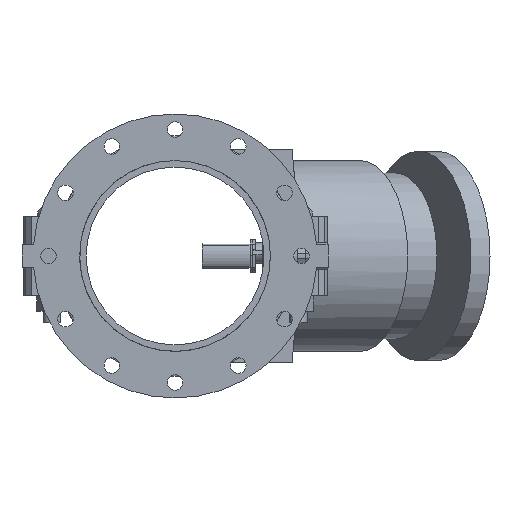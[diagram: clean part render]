
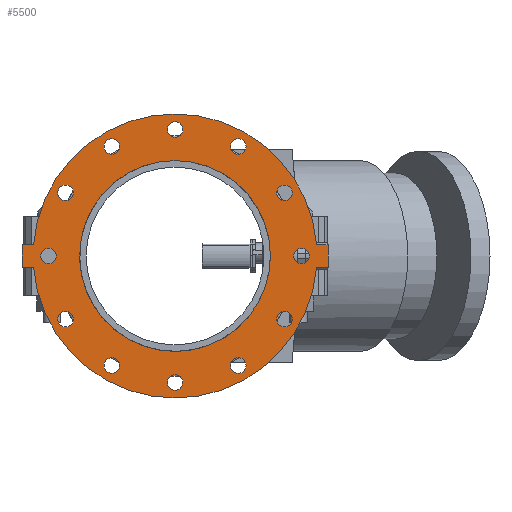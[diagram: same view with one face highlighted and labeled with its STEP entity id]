
A CAD part, front view. The second image highlights one B-rep face of the part: STEP entity #5500.
In plain terms, the highlighted planar face has unit normal (0, -1, 0) as drawn and (0, 0, 1) by its records, which use the part's own axes.
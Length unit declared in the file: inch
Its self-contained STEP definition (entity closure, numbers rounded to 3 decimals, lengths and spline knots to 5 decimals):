
#145=FACE_BOUND('',#736,.T.);
#146=FACE_BOUND('',#737,.T.);
#147=FACE_BOUND('',#738,.T.);
#148=FACE_BOUND('',#739,.T.);
#149=FACE_BOUND('',#740,.T.);
#150=FACE_BOUND('',#741,.T.);
#151=FACE_BOUND('',#742,.T.);
#152=FACE_BOUND('',#743,.T.);
#153=FACE_BOUND('',#744,.T.);
#154=FACE_BOUND('',#745,.T.);
#155=FACE_BOUND('',#746,.T.);
#156=FACE_BOUND('',#747,.T.);
#157=FACE_BOUND('',#748,.T.);
#221=PLANE('',#6018);
#418=FACE_OUTER_BOUND('',#735,.T.);
#735=EDGE_LOOP('',(#3628,#3629,#3630,#3631,#3632,#3633,#3634,#3635));
#736=EDGE_LOOP('',(#3636));
#737=EDGE_LOOP('',(#3637));
#738=EDGE_LOOP('',(#3638));
#739=EDGE_LOOP('',(#3639));
#740=EDGE_LOOP('',(#3640));
#741=EDGE_LOOP('',(#3641));
#742=EDGE_LOOP('',(#3642));
#743=EDGE_LOOP('',(#3643));
#744=EDGE_LOOP('',(#3644));
#745=EDGE_LOOP('',(#3645));
#746=EDGE_LOOP('',(#3646));
#747=EDGE_LOOP('',(#3647));
#748=EDGE_LOOP('',(#3648,#3649));
#1110=LINE('',#8434,#1519);
#1111=LINE('',#8437,#1520);
#1114=LINE('',#8442,#1523);
#1115=LINE('',#8445,#1524);
#1117=LINE('',#8448,#1526);
#1118=LINE('',#8450,#1527);
#1519=VECTOR('',#6737,0.3937);
#1520=VECTOR('',#6740,0.3937);
#1523=VECTOR('',#6745,0.3937);
#1524=VECTOR('',#6748,0.3937);
#1526=VECTOR('',#6752,0.3937);
#1527=VECTOR('',#6755,0.3937);
#1904=CIRCLE('',#5965,0.4375);
#1906=CIRCLE('',#5968,0.4375);
#1908=CIRCLE('',#5971,0.4375);
#1910=CIRCLE('',#5974,0.4375);
#1912=CIRCLE('',#5977,0.4375);
#1914=CIRCLE('',#5980,0.4375);
#1916=CIRCLE('',#5983,0.4375);
#1918=CIRCLE('',#5986,0.4375);
#1920=CIRCLE('',#5989,0.4375);
#1922=CIRCLE('',#5992,0.4375);
#1924=CIRCLE('',#5995,0.4375);
#1926=CIRCLE('',#5998,0.4375);
#1932=CIRCLE('',#6006,8.);
#1933=CIRCLE('',#6008,5.375);
#1934=CIRCLE('',#6009,5.375);
#1935=CIRCLE('',#6011,8.);
#2220=VERTEX_POINT('',#8321);
#2222=VERTEX_POINT('',#8327);
#2224=VERTEX_POINT('',#8333);
#2226=VERTEX_POINT('',#8339);
#2228=VERTEX_POINT('',#8345);
#2230=VERTEX_POINT('',#8351);
#2232=VERTEX_POINT('',#8357);
#2234=VERTEX_POINT('',#8363);
#2236=VERTEX_POINT('',#8369);
#2238=VERTEX_POINT('',#8375);
#2240=VERTEX_POINT('',#8381);
#2242=VERTEX_POINT('',#8387);
#2254=VERTEX_POINT('',#8414);
#2255=VERTEX_POINT('',#8416);
#2256=VERTEX_POINT('',#8420);
#2257=VERTEX_POINT('',#8422);
#2258=VERTEX_POINT('',#8426);
#2259=VERTEX_POINT('',#8428);
#2260=VERTEX_POINT('',#8432);
#2261=VERTEX_POINT('',#8436);
#2262=VERTEX_POINT('',#8440);
#2263=VERTEX_POINT('',#8444);
#2748=EDGE_CURVE('',#2220,#2220,#1904,.T.);
#2751=EDGE_CURVE('',#2222,#2222,#1906,.T.);
#2754=EDGE_CURVE('',#2224,#2224,#1908,.T.);
#2757=EDGE_CURVE('',#2226,#2226,#1910,.T.);
#2760=EDGE_CURVE('',#2228,#2228,#1912,.T.);
#2763=EDGE_CURVE('',#2230,#2230,#1914,.T.);
#2766=EDGE_CURVE('',#2232,#2232,#1916,.T.);
#2769=EDGE_CURVE('',#2234,#2234,#1918,.T.);
#2772=EDGE_CURVE('',#2236,#2236,#1920,.T.);
#2775=EDGE_CURVE('',#2238,#2238,#1922,.T.);
#2778=EDGE_CURVE('',#2240,#2240,#1924,.T.);
#2781=EDGE_CURVE('',#2242,#2242,#1926,.T.);
#2796=EDGE_CURVE('',#2254,#2255,#1932,.T.);
#2798=EDGE_CURVE('',#2257,#2256,#1933,.T.);
#2799=EDGE_CURVE('',#2256,#2257,#1934,.T.);
#2801=EDGE_CURVE('',#2259,#2258,#1935,.T.);
#2804=EDGE_CURVE('',#2255,#2260,#1110,.T.);
#2805=EDGE_CURVE('',#2261,#2259,#1111,.T.);
#2808=EDGE_CURVE('',#2258,#2262,#1114,.T.);
#2809=EDGE_CURVE('',#2263,#2254,#1115,.T.);
#2811=EDGE_CURVE('',#2262,#2263,#1117,.T.);
#2812=EDGE_CURVE('',#2260,#2261,#1118,.T.);
#3628=ORIENTED_EDGE('',*,*,#2808,.T.);
#3629=ORIENTED_EDGE('',*,*,#2811,.T.);
#3630=ORIENTED_EDGE('',*,*,#2809,.T.);
#3631=ORIENTED_EDGE('',*,*,#2796,.T.);
#3632=ORIENTED_EDGE('',*,*,#2804,.T.);
#3633=ORIENTED_EDGE('',*,*,#2812,.T.);
#3634=ORIENTED_EDGE('',*,*,#2805,.T.);
#3635=ORIENTED_EDGE('',*,*,#2801,.T.);
#3636=ORIENTED_EDGE('',*,*,#2748,.T.);
#3637=ORIENTED_EDGE('',*,*,#2751,.T.);
#3638=ORIENTED_EDGE('',*,*,#2754,.T.);
#3639=ORIENTED_EDGE('',*,*,#2757,.T.);
#3640=ORIENTED_EDGE('',*,*,#2760,.T.);
#3641=ORIENTED_EDGE('',*,*,#2763,.T.);
#3642=ORIENTED_EDGE('',*,*,#2766,.T.);
#3643=ORIENTED_EDGE('',*,*,#2769,.T.);
#3644=ORIENTED_EDGE('',*,*,#2772,.T.);
#3645=ORIENTED_EDGE('',*,*,#2775,.T.);
#3646=ORIENTED_EDGE('',*,*,#2778,.T.);
#3647=ORIENTED_EDGE('',*,*,#2781,.T.);
#3648=ORIENTED_EDGE('',*,*,#2798,.T.);
#3649=ORIENTED_EDGE('',*,*,#2799,.T.);
#5500=ADVANCED_FACE('',(#418,#145,#146,#147,#148,#149,#150,#151,#152,#153,
#154,#155,#156,#157),#221,.T.);
#5965=AXIS2_PLACEMENT_3D('',#8322,#6617,#6618);
#5968=AXIS2_PLACEMENT_3D('',#8328,#6624,#6625);
#5971=AXIS2_PLACEMENT_3D('',#8334,#6631,#6632);
#5974=AXIS2_PLACEMENT_3D('',#8340,#6638,#6639);
#5977=AXIS2_PLACEMENT_3D('',#8346,#6645,#6646);
#5980=AXIS2_PLACEMENT_3D('',#8352,#6652,#6653);
#5983=AXIS2_PLACEMENT_3D('',#8358,#6659,#6660);
#5986=AXIS2_PLACEMENT_3D('',#8364,#6666,#6667);
#5989=AXIS2_PLACEMENT_3D('',#8370,#6673,#6674);
#5992=AXIS2_PLACEMENT_3D('',#8376,#6680,#6681);
#5995=AXIS2_PLACEMENT_3D('',#8382,#6687,#6688);
#5998=AXIS2_PLACEMENT_3D('',#8388,#6694,#6695);
#6006=AXIS2_PLACEMENT_3D('',#8418,#6719,#6720);
#6008=AXIS2_PLACEMENT_3D('',#8423,#6724,#6725);
#6009=AXIS2_PLACEMENT_3D('',#8424,#6726,#6727);
#6011=AXIS2_PLACEMENT_3D('',#8429,#6731,#6732);
#6018=AXIS2_PLACEMENT_3D('',#8451,#6756,#6757);
#6617=DIRECTION('center_axis',(0.,0.,-1.));
#6618=DIRECTION('ref_axis',(-0.866,0.5,0.));
#6624=DIRECTION('center_axis',(0.,0.,-1.));
#6625=DIRECTION('ref_axis',(-0.5,0.866,0.));
#6631=DIRECTION('center_axis',(0.,0.,-1.));
#6632=DIRECTION('ref_axis',(0.,1.,0.));
#6638=DIRECTION('center_axis',(0.,0.,-1.));
#6639=DIRECTION('ref_axis',(0.5,0.866,0.));
#6645=DIRECTION('center_axis',(0.,0.,-1.));
#6646=DIRECTION('ref_axis',(0.866,0.5,0.));
#6652=DIRECTION('center_axis',(0.,0.,-1.));
#6653=DIRECTION('ref_axis',(1.,0.,0.));
#6659=DIRECTION('center_axis',(0.,0.,-1.));
#6660=DIRECTION('ref_axis',(0.866,-0.5,0.));
#6666=DIRECTION('center_axis',(0.,0.,-1.));
#6667=DIRECTION('ref_axis',(0.5,-0.866,0.));
#6673=DIRECTION('center_axis',(0.,0.,-1.));
#6674=DIRECTION('ref_axis',(0.,-1.,0.));
#6680=DIRECTION('center_axis',(0.,0.,-1.));
#6681=DIRECTION('ref_axis',(-0.5,-0.866,0.));
#6687=DIRECTION('center_axis',(0.,0.,-1.));
#6688=DIRECTION('ref_axis',(-0.866,-0.5,0.));
#6694=DIRECTION('center_axis',(0.,0.,-1.));
#6695=DIRECTION('ref_axis',(-1.,0.,0.));
#6719=DIRECTION('center_axis',(0.,0.,1.));
#6720=DIRECTION('ref_axis',(-1.,0.,0.));
#6724=DIRECTION('center_axis',(0.,0.,-1.));
#6725=DIRECTION('ref_axis',(-1.,0.,0.));
#6726=DIRECTION('center_axis',(0.,0.,-1.));
#6727=DIRECTION('ref_axis',(-1.,0.,0.));
#6731=DIRECTION('center_axis',(0.,0.,1.));
#6732=DIRECTION('ref_axis',(-1.,0.,0.));
#6737=DIRECTION('',(0.,1.,0.));
#6740=DIRECTION('',(0.,-1.,0.));
#6745=DIRECTION('',(0.,-1.,0.));
#6748=DIRECTION('',(0.,1.,0.));
#6752=DIRECTION('',(1.,0.,0.));
#6755=DIRECTION('',(-1.,0.,0.));
#6756=DIRECTION('center_axis',(0.,0.,1.));
#6757=DIRECTION('ref_axis',(1.,0.,0.));
#8321=CARTESIAN_POINT('',(-5.79154,3.34375,0.625));
#8322=CARTESIAN_POINT('Origin',(-6.17043,3.5625,0.625));
#8327=CARTESIAN_POINT('',(-3.34375,5.79154,0.625));
#8328=CARTESIAN_POINT('Origin',(-3.5625,6.17043,0.625));
#8333=CARTESIAN_POINT('',(0.,6.6875,0.625));
#8334=CARTESIAN_POINT('Origin',(0.,7.125,0.625));
#8339=CARTESIAN_POINT('',(3.34375,5.79154,0.625));
#8340=CARTESIAN_POINT('Origin',(3.5625,6.17043,0.625));
#8345=CARTESIAN_POINT('',(5.79154,3.34375,0.625));
#8346=CARTESIAN_POINT('Origin',(6.17043,3.5625,0.625));
#8351=CARTESIAN_POINT('',(6.6875,0.,0.625));
#8352=CARTESIAN_POINT('Origin',(7.125,0.,0.625));
#8357=CARTESIAN_POINT('',(5.79154,-3.34375,0.625));
#8358=CARTESIAN_POINT('Origin',(6.17043,-3.5625,0.625));
#8363=CARTESIAN_POINT('',(3.34375,-5.79154,0.625));
#8364=CARTESIAN_POINT('Origin',(3.5625,-6.17043,0.625));
#8369=CARTESIAN_POINT('',(0.,-6.6875,0.625));
#8370=CARTESIAN_POINT('Origin',(0.,-7.125,0.625));
#8375=CARTESIAN_POINT('',(-3.34375,-5.79154,0.625));
#8376=CARTESIAN_POINT('Origin',(-3.5625,-6.17043,0.625));
#8381=CARTESIAN_POINT('',(-5.79154,-3.34375,0.625));
#8382=CARTESIAN_POINT('Origin',(-6.17043,-3.5625,0.625));
#8387=CARTESIAN_POINT('',(-6.6875,0.,0.625));
#8388=CARTESIAN_POINT('Origin',(-7.125,0.,0.625));
#8414=CARTESIAN_POINT('',(0.625,-7.97555,0.625));
#8416=CARTESIAN_POINT('',(0.625,7.97555,0.625));
#8418=CARTESIAN_POINT('Origin',(0.,0.,0.625));
#8420=CARTESIAN_POINT('',(5.375,0.,0.625));
#8422=CARTESIAN_POINT('',(0.625,5.33854,0.625));
#8423=CARTESIAN_POINT('Origin',(0.,0.,0.625));
#8424=CARTESIAN_POINT('Origin',(0.,0.,0.625));
#8426=CARTESIAN_POINT('',(-0.625,-7.97555,0.625));
#8428=CARTESIAN_POINT('',(-0.625,7.97555,0.625));
#8429=CARTESIAN_POINT('Origin',(0.,0.,0.625));
#8432=CARTESIAN_POINT('',(0.625,8.625,0.625));
#8434=CARTESIAN_POINT('',(0.625,8.625,0.625));
#8436=CARTESIAN_POINT('',(-0.625,8.625,0.625));
#8437=CARTESIAN_POINT('',(-0.625,-8.625,0.625));
#8440=CARTESIAN_POINT('',(-0.625,-8.625,0.625));
#8442=CARTESIAN_POINT('',(-0.625,-8.625,0.625));
#8444=CARTESIAN_POINT('',(0.625,-8.625,0.625));
#8445=CARTESIAN_POINT('',(0.625,8.625,0.625));
#8448=CARTESIAN_POINT('',(0.625,-8.625,0.625));
#8450=CARTESIAN_POINT('',(-0.625,8.625,0.625));
#8451=CARTESIAN_POINT('Origin',(0.,0.,0.625));
